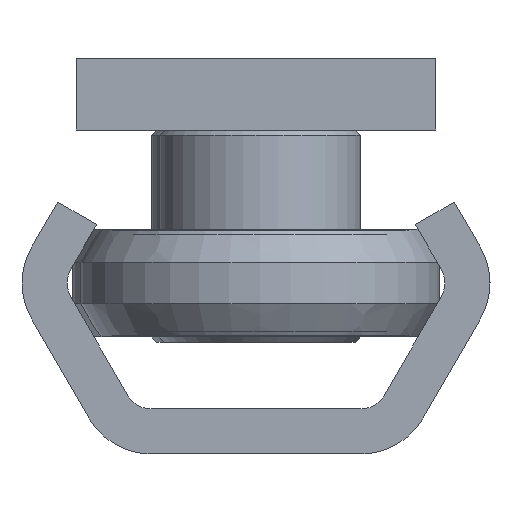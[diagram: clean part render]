
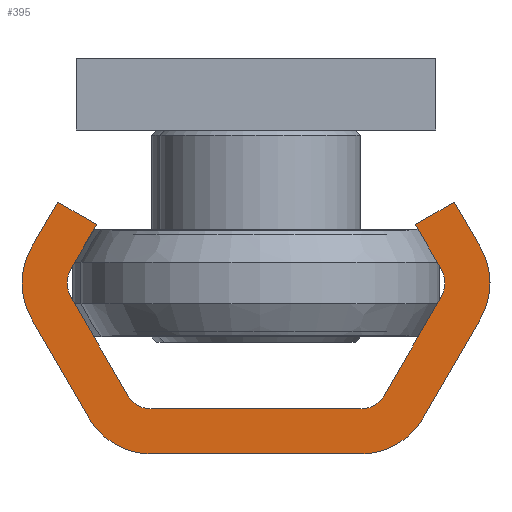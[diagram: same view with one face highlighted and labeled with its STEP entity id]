
A CAD part, left-side view. The second image highlights one B-rep face of the part: STEP entity #395.
In plain terms, the highlighted planar face has unit normal (-1, 0, 0).
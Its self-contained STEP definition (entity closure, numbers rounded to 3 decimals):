
#395 = ADVANCED_FACE( '', ( #832 ), #833, .F. );
#832 = FACE_OUTER_BOUND( '', #1422, .T. );
#833 = PLANE( '', #1423 );
#1422 = EDGE_LOOP( '', ( #2358, #2359, #2360, #2361, #2362, #2363, #2364, #2365, #2366, #2367, #2368, #2369, #2370, #2371, #2372, #2373, #2374, #2375, #2376, #2377 ) );
#1423 = AXIS2_PLACEMENT_3D( '', #2378, #2379, #2380 );
#2358 = ORIENTED_EDGE( '', *, *, #3385, .F. );
#2359 = ORIENTED_EDGE( '', *, *, #3306, .F. );
#2360 = ORIENTED_EDGE( '', *, *, #3336, .F. );
#2361 = ORIENTED_EDGE( '', *, *, #3267, .F. );
#2362 = ORIENTED_EDGE( '', *, *, #3386, .F. );
#2363 = ORIENTED_EDGE( '', *, *, #3387, .F. );
#2364 = ORIENTED_EDGE( '', *, *, #3388, .F. );
#2365 = ORIENTED_EDGE( '', *, *, #3389, .T. );
#2366 = ORIENTED_EDGE( '', *, *, #3238, .F. );
#2367 = ORIENTED_EDGE( '', *, *, #3390, .T. );
#2368 = ORIENTED_EDGE( '', *, *, #3391, .F. );
#2369 = ORIENTED_EDGE( '', *, *, #3392, .T. );
#2370 = ORIENTED_EDGE( '', *, *, #3243, .F. );
#2371 = ORIENTED_EDGE( '', *, *, #3393, .T. );
#2372 = ORIENTED_EDGE( '', *, *, #3394, .F. );
#2373 = ORIENTED_EDGE( '', *, *, #3395, .F. );
#2374 = ORIENTED_EDGE( '', *, *, #3396, .F. );
#2375 = ORIENTED_EDGE( '', *, *, #3397, .F. );
#2376 = ORIENTED_EDGE( '', *, *, #3398, .F. );
#2377 = ORIENTED_EDGE( '', *, *, #3399, .F. );
#2378 = CARTESIAN_POINT( '', ( 0., -5.825, -4. ) );
#2379 = DIRECTION( '', ( 1., 0., 0. ) );
#2380 = DIRECTION( '', ( 0., 0., -1. ) );
#3238 = EDGE_CURVE( '', #3686, #3687, #3688, .T. );
#3243 = EDGE_CURVE( '', #3695, #3696, #3697, .T. );
#3267 = EDGE_CURVE( '', #3736, #3737, #3738, .T. );
#3306 = EDGE_CURVE( '', #3800, #3801, #3802, .T. );
#3336 = EDGE_CURVE( '', #3737, #3800, #3850, .T. );
#3385 = EDGE_CURVE( '', #3801, #3925, #3926, .T. );
#3386 = EDGE_CURVE( '', #3927, #3736, #3928, .T. );
#3387 = EDGE_CURVE( '', #3929, #3927, #3930, .T. );
#3388 = EDGE_CURVE( '', #3931, #3929, #3932, .T. );
#3389 = EDGE_CURVE( '', #3931, #3687, #3933, .T. );
#3390 = EDGE_CURVE( '', #3686, #3934, #3935, .T. );
#3391 = EDGE_CURVE( '', #3936, #3934, #3937, .T. );
#3392 = EDGE_CURVE( '', #3936, #3696, #3938, .T. );
#3393 = EDGE_CURVE( '', #3695, #3939, #3940, .T. );
#3394 = EDGE_CURVE( '', #3941, #3939, #3942, .T. );
#3395 = EDGE_CURVE( '', #3943, #3941, #3944, .T. );
#3396 = EDGE_CURVE( '', #3945, #3943, #3946, .T. );
#3397 = EDGE_CURVE( '', #3947, #3945, #3948, .T. );
#3398 = EDGE_CURVE( '', #3949, #3947, #3950, .T. );
#3399 = EDGE_CURVE( '', #3925, #3949, #3951, .T. );
#3686 = VERTEX_POINT( '', #4339 );
#3687 = VERTEX_POINT( '', #4340 );
#3688 = LINE( '', #4341, #4342 );
#3695 = VERTEX_POINT( '', #4352 );
#3696 = VERTEX_POINT( '', #4353 );
#3697 = LINE( '', #4354, #4355 );
#3736 = VERTEX_POINT( '', #4400 );
#3737 = VERTEX_POINT( '', #4401 );
#3738 = CIRCLE( '', #4402, 4. );
#3800 = VERTEX_POINT( '', #4475 );
#3801 = VERTEX_POINT( '', #4476 );
#3802 = CIRCLE( '', #4477, 4. );
#3850 = LINE( '', #4532, #4533 );
#3925 = VERTEX_POINT( '', #4631 );
#3926 = LINE( '', #4632, #4633 );
#3927 = VERTEX_POINT( '', #4634 );
#3928 = LINE( '', #4635, #4636 );
#3929 = VERTEX_POINT( '', #4637 );
#3930 = LINE( '', #4638, #4639 );
#3931 = VERTEX_POINT( '', #4640 );
#3932 = LINE( '', #4641, #4642 );
#3933 = CIRCLE( '', #4643, 1.5 );
#3934 = VERTEX_POINT( '', #4644 );
#3935 = CIRCLE( '', #4645, 1.5 );
#3936 = VERTEX_POINT( '', #4646 );
#3937 = LINE( '', #4647, #4648 );
#3938 = CIRCLE( '', #4649, 1.5 );
#3939 = VERTEX_POINT( '', #4650 );
#3940 = CIRCLE( '', #4651, 1.5 );
#3941 = VERTEX_POINT( '', #4652 );
#3942 = LINE( '', #4653, #4654 );
#3943 = VERTEX_POINT( '', #4655 );
#3944 = LINE( '', #4656, #4657 );
#3945 = VERTEX_POINT( '', #4658 );
#3946 = LINE( '', #4659, #4660 );
#3947 = VERTEX_POINT( '', #4661 );
#3948 = CIRCLE( '', #4662, 4. );
#3949 = VERTEX_POINT( '', #4663 );
#3950 = LINE( '', #4664, #4665 );
#3951 = CIRCLE( '', #4666, 4. );
#4339 = CARTESIAN_POINT( '', ( 0., 7.124, -3.25 ) );
#4340 = CARTESIAN_POINT( '', ( 0., 10.299, -8.75 ) );
#4341 = CARTESIAN_POINT( '', ( 0., 7.124, -3.25 ) );
#4342 = VECTOR( '', #5101, 1000. );
#4352 = CARTESIAN_POINT( '', ( 0., -10.299, -8.75 ) );
#4353 = CARTESIAN_POINT( '', ( 0., -7.124, -3.25 ) );
#4354 = CARTESIAN_POINT( '', ( 0., -10.299, -8.75 ) );
#4355 = VECTOR( '', #5105, 1000. );
#4400 = CARTESIAN_POINT( '', ( 0., 12.464, -11.5 ) );
#4401 = CARTESIAN_POINT( '', ( 0., 12.464, -7.5 ) );
#4402 = AXIS2_PLACEMENT_3D( '', #5142, #5143, #5144 );
#4475 = CARTESIAN_POINT( '', ( 0., 9.289, -2. ) );
#4476 = CARTESIAN_POINT( '', ( 0., 5.825, 0. ) );
#4477 = AXIS2_PLACEMENT_3D( '', #5201, #5202, #5203 );
#4532 = CARTESIAN_POINT( '', ( 0., 12.464, -7.5 ) );
#4533 = VECTOR( '', #5250, 1000. );
#4631 = CARTESIAN_POINT( '', ( 0., -5.825, 0. ) );
#4632 = CARTESIAN_POINT( '', ( 0., 5.825, 0. ) );
#4633 = VECTOR( '', #5307, 1000. );
#4634 = CARTESIAN_POINT( '', ( 0., 11.021, -14. ) );
#4635 = CARTESIAN_POINT( '', ( 0., 11.021, -14. ) );
#4636 = VECTOR( '', #5308, 1000. );
#4637 = CARTESIAN_POINT( '', ( 0., 8.856, -12.75 ) );
#4638 = CARTESIAN_POINT( '', ( 0., 8.856, -12.75 ) );
#4639 = VECTOR( '', #5309, 1000. );
#4640 = CARTESIAN_POINT( '', ( 0., 10.299, -10.25 ) );
#4641 = CARTESIAN_POINT( '', ( 0., 10.299, -10.25 ) );
#4642 = VECTOR( '', #5310, 1000. );
#4643 = AXIS2_PLACEMENT_3D( '', #5311, #5312, #5313 );
#4644 = CARTESIAN_POINT( '', ( 0., 5.825, -2.5 ) );
#4645 = AXIS2_PLACEMENT_3D( '', #5314, #5315, #5316 );
#4646 = CARTESIAN_POINT( '', ( 0., -5.825, -2.5 ) );
#4647 = CARTESIAN_POINT( '', ( 0., -5.825, -2.5 ) );
#4648 = VECTOR( '', #5317, 1000. );
#4649 = AXIS2_PLACEMENT_3D( '', #5318, #5319, #5320 );
#4650 = CARTESIAN_POINT( '', ( 0., -10.299, -10.25 ) );
#4651 = AXIS2_PLACEMENT_3D( '', #5321, #5322, #5323 );
#4652 = CARTESIAN_POINT( '', ( 0., -8.856, -12.75 ) );
#4653 = CARTESIAN_POINT( '', ( 0., -8.856, -12.75 ) );
#4654 = VECTOR( '', #5324, 1000. );
#4655 = CARTESIAN_POINT( '', ( 0., -11.021, -14. ) );
#4656 = CARTESIAN_POINT( '', ( 0., -11.021, -14. ) );
#4657 = VECTOR( '', #5325, 1000. );
#4658 = CARTESIAN_POINT( '', ( 0., -12.464, -11.5 ) );
#4659 = CARTESIAN_POINT( '', ( 0., -12.464, -11.5 ) );
#4660 = VECTOR( '', #5326, 1000. );
#4661 = CARTESIAN_POINT( '', ( 0., -12.464, -7.5 ) );
#4662 = AXIS2_PLACEMENT_3D( '', #5327, #5328, #5329 );
#4663 = CARTESIAN_POINT( '', ( 0., -9.289, -2. ) );
#4664 = CARTESIAN_POINT( '', ( 0., -9.289, -2. ) );
#4665 = VECTOR( '', #5330, 1000. );
#4666 = AXIS2_PLACEMENT_3D( '', #5331, #5332, #5333 );
#5101 = DIRECTION( '', ( 0., 0.5, -0.866 ) );
#5105 = DIRECTION( '', ( 0., 0.5, 0.866 ) );
#5142 = CARTESIAN_POINT( '', ( 0., 9., -9.5 ) );
#5143 = DIRECTION( '', ( 1., 0., 0. ) );
#5144 = DIRECTION( '', ( 0., 0., -1. ) );
#5201 = CARTESIAN_POINT( '', ( 0., 5.825, -4. ) );
#5202 = DIRECTION( '', ( 1., 0., 0. ) );
#5203 = DIRECTION( '', ( 0., 0., -1. ) );
#5250 = DIRECTION( '', ( 0., -0.5, 0.866 ) );
#5307 = DIRECTION( '', ( 0., -1., 0. ) );
#5308 = DIRECTION( '', ( 0., 0.5, 0.866 ) );
#5309 = DIRECTION( '', ( 0., 0.866, -0.5 ) );
#5310 = DIRECTION( '', ( 0., -0.5, -0.866 ) );
#5311 = CARTESIAN_POINT( '', ( 0., 9., -9.5 ) );
#5312 = DIRECTION( '', ( 1., 0., 0. ) );
#5313 = DIRECTION( '', ( 0., 0., -1. ) );
#5314 = CARTESIAN_POINT( '', ( 0., 5.825, -4. ) );
#5315 = DIRECTION( '', ( 1., 0., 0. ) );
#5316 = DIRECTION( '', ( 0., 0., -1. ) );
#5317 = DIRECTION( '', ( 0., 1., 0. ) );
#5318 = CARTESIAN_POINT( '', ( 0., -5.825, -4. ) );
#5319 = DIRECTION( '', ( 1., 0., 0. ) );
#5320 = DIRECTION( '', ( 0., 0., -1. ) );
#5321 = CARTESIAN_POINT( '', ( 0., -9., -9.5 ) );
#5322 = DIRECTION( '', ( 1., 0., 0. ) );
#5323 = DIRECTION( '', ( 0., 0., -1. ) );
#5324 = DIRECTION( '', ( 0., -0.5, 0.866 ) );
#5325 = DIRECTION( '', ( 0., 0.866, 0.5 ) );
#5326 = DIRECTION( '', ( 0., 0.5, -0.866 ) );
#5327 = CARTESIAN_POINT( '', ( 0., -9., -9.5 ) );
#5328 = DIRECTION( '', ( 1., 0., 0. ) );
#5329 = DIRECTION( '', ( 0., 0., -1. ) );
#5330 = DIRECTION( '', ( 0., -0.5, -0.866 ) );
#5331 = CARTESIAN_POINT( '', ( 0., -5.825, -4. ) );
#5332 = DIRECTION( '', ( 1., 0., 0. ) );
#5333 = DIRECTION( '', ( 0., 0., -1. ) );
